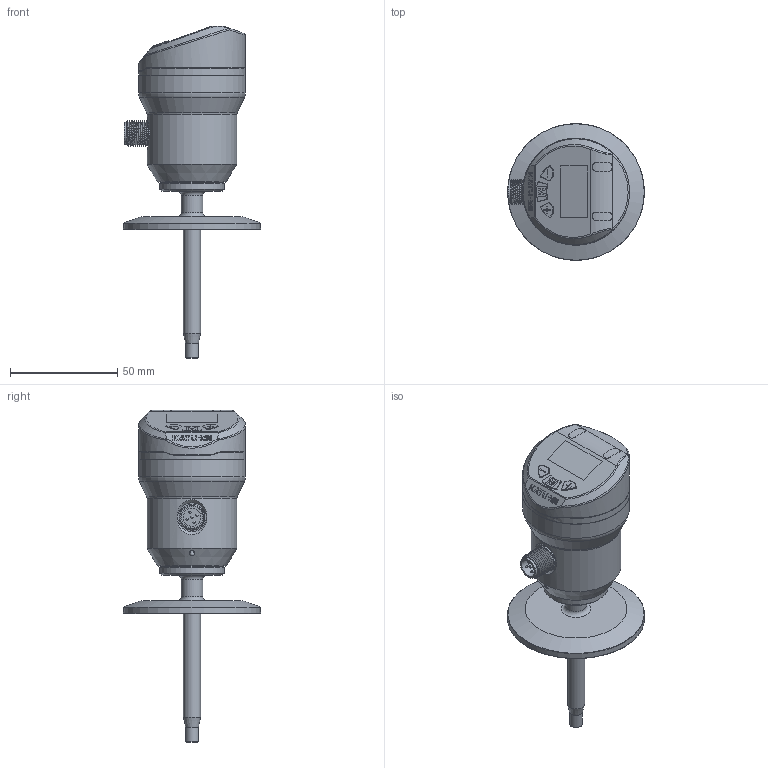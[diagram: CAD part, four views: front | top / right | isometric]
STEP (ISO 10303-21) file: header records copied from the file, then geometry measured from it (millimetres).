
FILE_DESCRIPTION( (''), '2;1');
FILE_NAME( 'QEKE_H64_L60_tri-clamp.step', '2026-06-25T11:46:10+08:00', (''), (''), '', '', '');
FILE_SCHEMA (('AP203_CONFIGURATION_CONTROLLED_3D_DESIGN_OF_MECHANICAL_PARTS_AND_ASSEMBLIES_MIM_LF { 1 0 10303 403 2 1 2}'));
Length unit declared in the file: millimetre
Products named in the file (1): QEKE H64_L60_tri-clamp
Bounding box: 64 x 64 x 155.09 mm (x, y, z)
Volume: 106605.7 mm3; surface area: 40199.2 mm2
Topology: 9 solids, 9 shells, 560 faces, 1402 edges, 905 vertices
Faces by surface type: plane 303, cylinder 130, bspline 43, cone 38, torus 35, sphere 11
Full cylindrical faces by diameter (mm): 1 x10, 2.5 x1, 2.7 x5, 3.1 x1, 3.5 x2, 6 x1, 6.8 x1, 8 x1, 8.4 x1, 9.7 x1, 9.8 x1, 10 x1, 10.1 x1, 11 x1, 11.6 x1, 12 x1, 23 x3, 26.1 x5, 30 x1, 42 x1, 48 x1, 50 x3, 64 x1
Entity records: 20119 total; most frequent: CARTESIAN_POINT 6610, DIRECTION 2540, ORIENTED_EDGE 2528, EDGE_CURVE 1264, AXIS2_PLACEMENT_3D 906, VERTEX_POINT 858, LINE 728, VECTOR 728
